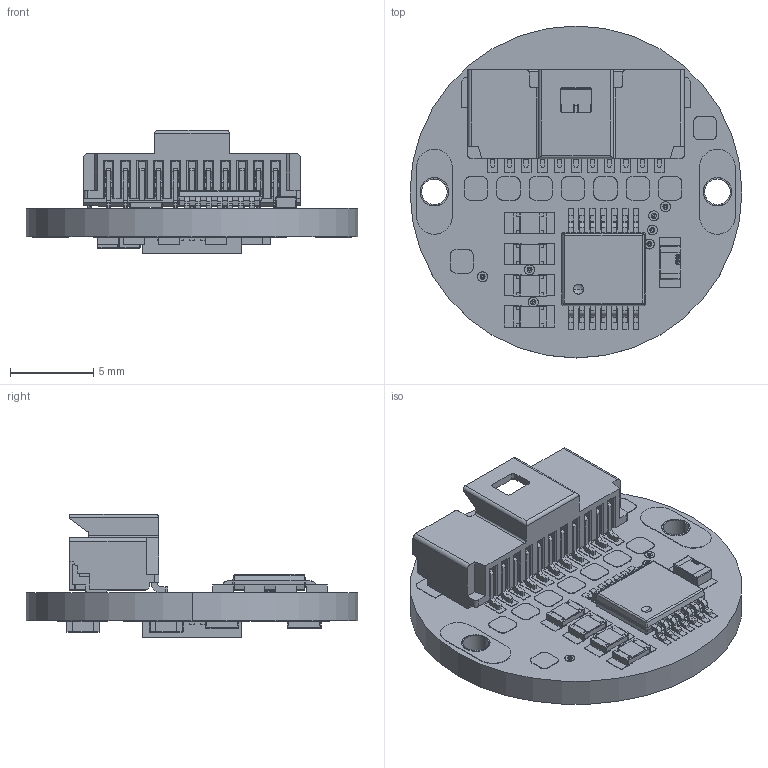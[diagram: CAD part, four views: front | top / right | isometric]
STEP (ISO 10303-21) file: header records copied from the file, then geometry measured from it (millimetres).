
FILE_DESCRIPTION (( 'STEP AP214' ), '1' );
FILE_NAME ('RMB20BC_MODM135.STEP', '2017-07-14T10:38:09', ( '' ), ( '' ), 'SwSTEP 2.0', 'SolidWorks 2016', '' );
FILE_SCHEMA (( 'AUTOMOTIVE_DESIGN' ));
Length unit declared in the file: millimetre
Products named in the file (1): RMB20BC_MODM135
Bounding box: 19.93 x 19.93 x 7.4 mm (x, y, z)
Surface area: 2059.8 mm2 (no closed solid volume)
Topology: 0 solids, 248 shells, 3914 faces, 9552 edges, 6132 vertices
Faces by surface type: plane 2928, bspline 654, cylinder 232, cone 100
Entity records: 188251 total; most frequent: CARTESIAN_POINT 57935, ORIENTED_EDGE 18984, DIRECTION 14147, EDGE_CURVE 9512, VECTOR 6751, LINE 6751, VERTEX_POINT 6132, EDGE_LOOP 4153
